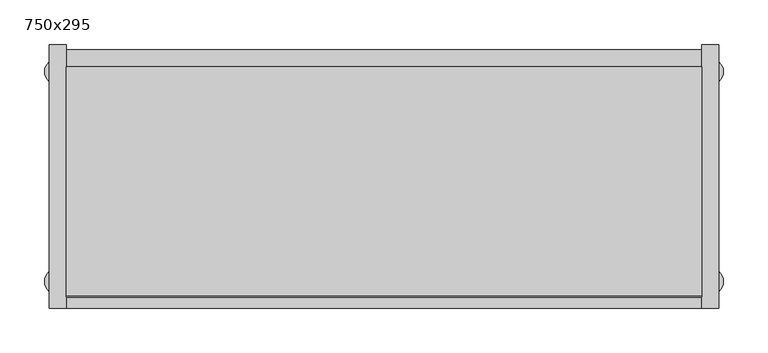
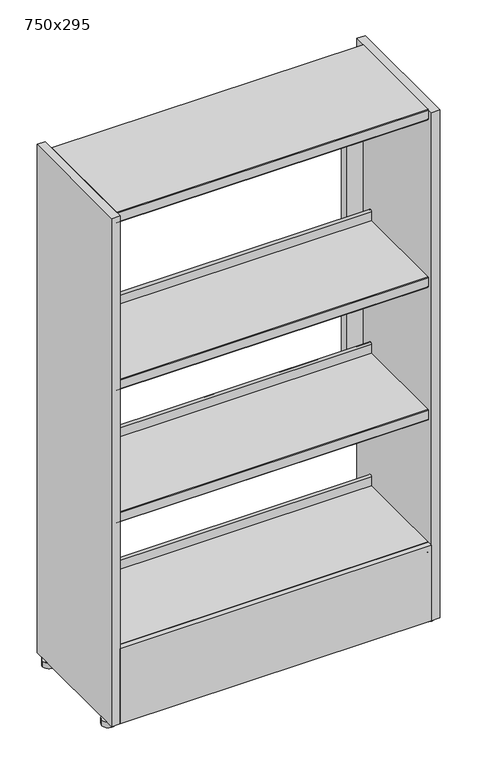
"""IFC4 building model written with IfcOpenShell, lengths in millimetres: furniture geometry, BK Library - Smaaland ES - 1240 : 750x295."""

from ifc_helpers import new_model, si_unit, point, frame, frame_2d, origin, origin_with_axes, place, context, project, spatial, polyline, circle_curve, trimmed, segment, composite_curve, outline, extrude, source, transform, mapped, element, save


def furniture_750x295_18b06e9d(model_context):
    return source(origin(), model_context, "Body", "SweptSolid", [
        extrude(outline(composite_curve([segment(trimmed(circle_curve(frame_2d((365.5005427, 117.4952633)), 14.4994573), [point((380.0, 117.4952633))], [point((351.0010853, 117.4952633))], False, "CARTESIAN"), True, "CONTINUOUS"), segment(trimmed(circle_curve(frame_2d((365.5005427, 117.4952633)), 14.4994573), [point((351.0010853, 117.4952633))], [point((380.0, 117.4952633))], False, "CARTESIAN"), True, "CONTINUOUS")], self_intersect=False)), origin_with_axes(), (0.0, 0.0, 1.0), 13.6999998),
        extrude(outline(composite_curve([segment(trimmed(circle_curve(frame_2d((-365.5005427, 117.4952633)), 14.4994573), [point((-380.0, 117.4952633))], [point((-351.0010853, 117.4952633))], False, "CARTESIAN"), True, "CONTINUOUS"), segment(trimmed(circle_curve(frame_2d((-365.5005427, 117.4952633)), 14.4994573), [point((-351.0010853, 117.4952633))], [point((-380.0, 117.4952633))], False, "CARTESIAN"), True, "CONTINUOUS")], self_intersect=False)), origin_with_axes(), (0.0, 0.0, 1.0), 13.6999998),
        extrude(outline(composite_curve([segment(trimmed(circle_curve(frame_2d((365.5005427, -117.4952633)), 14.4994573), [point((380.0, -117.4952633))], [point((351.0010853, -117.4952633))], False, "CARTESIAN"), True, "CONTINUOUS"), segment(trimmed(circle_curve(frame_2d((365.5005427, -117.4952633)), 14.4994573), [point((351.0010853, -117.4952633))], [point((380.0, -117.4952633))], False, "CARTESIAN"), True, "CONTINUOUS")], self_intersect=False)), origin_with_axes(), (0.0, 0.0, 1.0), 13.6999998),
        extrude(outline(composite_curve([segment(trimmed(circle_curve(frame_2d((-365.5005427, -117.4952633)), 14.4994573), [point((-380.0, -117.4952633))], [point((-351.0010853, -117.4952633))], False, "CARTESIAN"), True, "CONTINUOUS"), segment(trimmed(circle_curve(frame_2d((-365.5005427, -117.4952633)), 14.4994573), [point((-351.0010853, -117.4952633))], [point((-380.0, -117.4952633))], False, "CARTESIAN"), True, "CONTINUOUS")], self_intersect=False)), origin_with_axes(), (0.0, 0.0, 1.0), 13.6999998),
        extrude(outline(polyline([(1106.1999512, -356.0), (391.1999512, -356.0), (391.1999512, 356.0), (1106.1999512, 356.0), (1106.1999512, -356.0)]), holes=[polyline([(1066.1999514, -317.5), (1066.1999514, 317.5), (431.1999514, 317.5), (431.1999514, -317.5), (1066.1999514, -317.5)])]), frame((0.0, 123.0, 0.0), z_axis=(0.0, 1.0, 0.0), x_axis=(0.0, 0.0, 1.0)), (0.0, 0.0, 1.0), 19.0),
        extrude(outline(polyline([(356.0, -135.2476624), (356.0, -147.5), (-356.0, -147.5), (-356.0, -135.2476624), (356.0, -135.2476624)])), frame((0.0, 0.0, 13.6999998), z_axis=(0.0, 0.0, 1.0), x_axis=(1.0, 0.0, 0.0)), (0.0, 0.0, 1.0), 181.4999514),
        extrude(outline(composite_curve([segment(polyline([(123.0, 1240.0), (123.0, 1238.0), (-133.75, 1238.0), (-133.75, 1216.5), (-121.75, 1216.5), (-121.75, 1215.0), (-133.75, 1215.0)]), True, "CONTINUOUS"), segment(trimmed(circle_curve(frame_2d((-133.75, 1216.5)), 1.5), [point((-133.75, 1215.0))], [point((-135.25, 1216.5))], False, "CARTESIAN"), True, "CONTINUOUS"), segment(polyline([(-135.25, 1216.5), (-135.25, 1238.5)]), True, "CONTINUOUS"), segment(trimmed(circle_curve(frame_2d((-133.75, 1238.5)), 1.5), [point((-135.25, 1238.5))], [point((-133.75, 1240.0))], False, "CARTESIAN"), True, "CONTINUOUS"), segment(polyline([(-133.75, 1240.0), (123.0, 1240.0)]), True, "CONTINUOUS")], self_intersect=False)), frame((-356.0, 0.0, 0.0), z_axis=(1.0, 0.0, 0.0), x_axis=(0.0, 1.0, 0.0)), (0.0, 0.0, 1.0), 712.0),
        extrude(outline(composite_curve([segment(polyline([(89.75, 835.1999512), (89.75, 856.7196336)]), True, "CONTINUOUS"), segment(trimmed(circle_curve(frame_2d((93.25, 856.7196336)), 3.5), [point((89.75, 856.7196336))], [point((96.75, 856.7196336))], False, "CARTESIAN"), True, "CONTINUOUS"), segment(polyline([(96.75, 856.7196336), (96.75, 848.1999512), (95.25, 848.1999512), (95.25, 856.7020126)]), True, "CONTINUOUS"), segment(trimmed(circle_curve(frame_2d((93.25, 856.7020126)), 2.0), [point((95.25, 856.7020126))], [point((91.25, 856.7020126))], True, "CARTESIAN"), True, "CONTINUOUS"), segment(polyline([(91.25, 856.7020126), (91.25, 835.1547733)]), True, "CONTINUOUS"), segment(trimmed(circle_curve(frame_2d((89.7951779, 835.1547733)), 1.4548221), [point((91.25, 835.1547733))], [point((89.7951779, 833.6999512))], False, "CARTESIAN"), True, "CONTINUOUS"), segment(polyline([(89.7951779, 833.6999512), (-133.75, 833.6999512), (-133.75, 812.1999512), (-121.75, 812.1999512), (-121.75, 810.6999512), (-133.75, 810.6999512)]), True, "CONTINUOUS"), segment(trimmed(circle_curve(frame_2d((-133.75, 812.1999512)), 1.5), [point((-133.75, 810.6999512))], [point((-135.25, 812.1999512))], False, "CARTESIAN"), True, "CONTINUOUS"), segment(polyline([(-135.25, 812.1999512), (-135.25, 833.6999512)]), True, "CONTINUOUS"), segment(trimmed(circle_curve(frame_2d((-133.75, 833.6999512)), 1.5), [point((-135.25, 833.6999512))], [point((-133.75, 835.1999512))], False, "CARTESIAN"), True, "CONTINUOUS"), segment(polyline([(-133.75, 835.1999512), (89.75, 835.1999512)]), True, "CONTINUOUS")], self_intersect=False)), frame((-356.0, 0.0, 0.0), z_axis=(1.0, 0.0, 0.0), x_axis=(0.0, 1.0, 0.0)), (0.0, 0.0, 1.0), 712.0),
        extrude(outline(composite_curve([segment(polyline([(89.75, 515.1999512), (89.75, 536.7196336)]), True, "CONTINUOUS"), segment(trimmed(circle_curve(frame_2d((93.25, 536.7196336)), 3.5), [point((89.75, 536.7196336))], [point((96.75, 536.7196336))], False, "CARTESIAN"), True, "CONTINUOUS"), segment(polyline([(96.75, 536.7196336), (96.75, 528.1999512), (95.25, 528.1999512), (95.25, 536.7020126)]), True, "CONTINUOUS"), segment(trimmed(circle_curve(frame_2d((93.25, 536.7020126)), 2.0), [point((95.25, 536.7020126))], [point((91.25, 536.7020126))], True, "CARTESIAN"), True, "CONTINUOUS"), segment(polyline([(91.25, 536.7020126), (91.25, 515.1547733)]), True, "CONTINUOUS"), segment(trimmed(circle_curve(frame_2d((89.7951779, 515.1547733)), 1.4548221), [point((91.25, 515.1547733))], [point((89.7951779, 513.6999512))], False, "CARTESIAN"), True, "CONTINUOUS"), segment(polyline([(89.7951779, 513.6999512), (-133.75, 513.6999512), (-133.75, 492.1999512), (-121.75, 492.1999512), (-121.75, 490.6999512), (-133.75, 490.6999512)]), True, "CONTINUOUS"), segment(trimmed(circle_curve(frame_2d((-133.75, 492.1999512)), 1.5), [point((-133.75, 490.6999512))], [point((-135.25, 492.1999512))], False, "CARTESIAN"), True, "CONTINUOUS"), segment(polyline([(-135.25, 492.1999512), (-135.25, 513.6999512)]), True, "CONTINUOUS"), segment(trimmed(circle_curve(frame_2d((-133.75, 513.6999512)), 1.5), [point((-135.25, 513.6999512))], [point((-133.75, 515.1999512))], False, "CARTESIAN"), True, "CONTINUOUS"), segment(polyline([(-133.75, 515.1999512), (89.75, 515.1999512)]), True, "CONTINUOUS")], self_intersect=False)), frame((-356.0, 0.0, 0.0), z_axis=(1.0, 0.0, 0.0), x_axis=(0.0, 1.0, 0.0)), (0.0, 0.0, 1.0), 712.0),
        extrude(outline(composite_curve([segment(polyline([(89.75, 195.1999512), (89.75, 216.7196336)]), True, "CONTINUOUS"), segment(trimmed(circle_curve(frame_2d((93.25, 216.7196336)), 3.5), [point((89.75, 216.7196336))], [point((96.75, 216.7196336))], False, "CARTESIAN"), True, "CONTINUOUS"), segment(polyline([(96.75, 216.7196336), (96.75, 208.1999512), (95.25, 208.1999512), (95.25, 216.7020126)]), True, "CONTINUOUS"), segment(trimmed(circle_curve(frame_2d((93.25, 216.7020126)), 2.0), [point((95.25, 216.7020126))], [point((91.25, 216.7020126))], True, "CARTESIAN"), True, "CONTINUOUS"), segment(polyline([(91.25, 216.7020126), (91.25, 195.1547733)]), True, "CONTINUOUS"), segment(trimmed(circle_curve(frame_2d((89.7951779, 195.1547733)), 1.4548221), [point((91.25, 195.1547733))], [point((89.7951779, 193.6999512))], False, "CARTESIAN"), True, "CONTINUOUS"), segment(polyline([(89.7951779, 193.6999512), (-133.75, 193.6999512), (-133.75, 172.1999512), (-121.75, 172.1999512), (-121.75, 170.6999512), (-133.75, 170.6999512)]), True, "CONTINUOUS"), segment(trimmed(circle_curve(frame_2d((-133.75, 172.1999512)), 1.5), [point((-133.75, 170.6999512))], [point((-135.25, 172.1999512))], False, "CARTESIAN"), True, "CONTINUOUS"), segment(polyline([(-135.25, 172.1999512), (-135.25, 193.6999512)]), True, "CONTINUOUS"), segment(trimmed(circle_curve(frame_2d((-133.75, 193.6999512)), 1.5), [point((-135.25, 193.6999512))], [point((-133.75, 195.1999512))], False, "CARTESIAN"), True, "CONTINUOUS"), segment(polyline([(-133.75, 195.1999512), (89.75, 195.1999512)]), True, "CONTINUOUS")], self_intersect=False)), frame((-356.0, 0.0, 0.0), z_axis=(1.0, 0.0, 0.0), x_axis=(0.0, 1.0, 0.0)), (0.0, 0.0, 1.0), 712.0),
        extrude(outline(polyline([(356.0, 147.5), (375.0, 147.5), (375.0, -147.5), (356.0, -147.5), (356.0, 147.5)])), frame((0.0, 0.0, 13.6999998), z_axis=(0.0, 0.0, 1.0), x_axis=(1.0, 0.0, 0.0)), (0.0, 0.0, 1.0), 1226.3000002),
        extrude(outline(polyline([(-356.0, 147.5), (-356.0, -147.5), (-375.0, -147.5), (-375.0, 147.5), (-356.0, 147.5)])), frame((0.0, 0.0, 13.6999998), z_axis=(0.0, 0.0, 1.0), x_axis=(1.0, 0.0, 0.0)), (0.0, 0.0, 1.0), 1226.3000002),
    ])


if __name__ == "__main__":
    model = new_model("IFC4")
    model_context = context("Model", 3, world=origin())
    ifc_project = project(units=[si_unit("LENGTHUNIT", "METRE", prefix="MILLI")], contexts=[model_context])
    site = spatial("IfcSite", under=ifc_project)
    building = spatial("IfcBuilding", under=site)
    placement = place(None, origin())
    furniture_750x295_shape = furniture_750x295_18b06e9d(model_context)
    element("IfcFurniture", 1, ObjectType="BK Library - Smaaland ES - 1240 : 750x295", at=placement, inside=building, context=model_context, shape_type="MappedRepresentation", body=[
        mapped(furniture_750x295_shape, transform((0.0, 0.0, 0.0), x_axis=(1.0, 0.0, 0.0), y_axis=(0.0, 1.0, 0.0), z_axis=(0.0, 0.0, 1.0))),
    ])
    save(model, "model.ifc")
